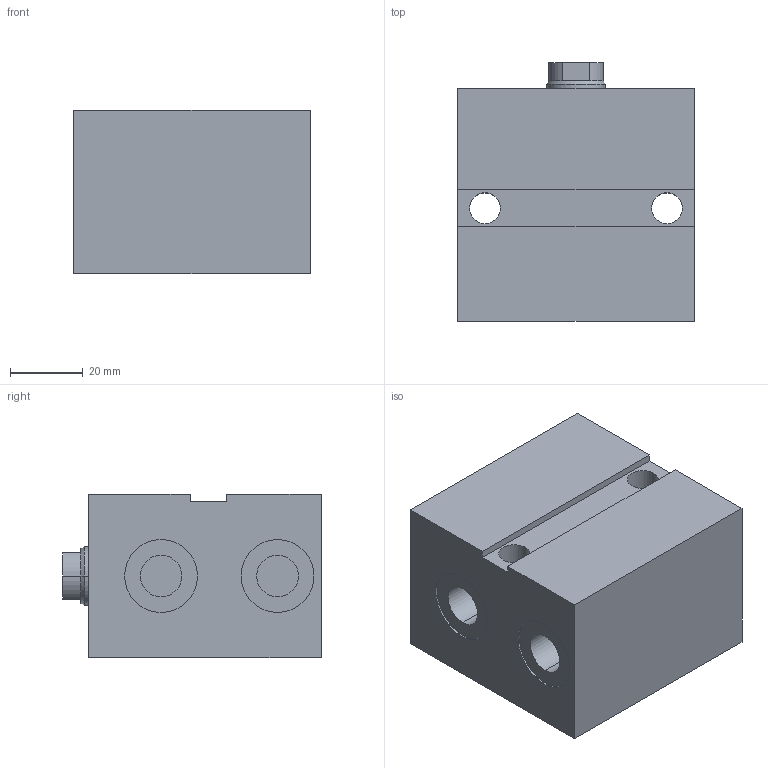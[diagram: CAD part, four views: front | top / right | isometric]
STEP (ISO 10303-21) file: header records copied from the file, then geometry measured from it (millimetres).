
FILE_DESCRIPTION (( 'STEP AP203' ), '1' );
FILE_NAME ('GERMA_Blockzylinder_602-025-020.STEP', '2015-06-20T17:56:20', ( '' ), ( '' ), 'SwSTEP 2.0', 'SolidWorks 2013', '' );
FILE_SCHEMA (( 'CONFIG_CONTROL_DESIGN' ));
Length unit declared in the file: millimetre
Products named in the file (3): Kolben 60x-025_Kolben DU.25-Hub20-IG; GERMA_Blockzylinder_602-025-020; GH-600-025_GH-602-025-020
Assembly tree (2 placements, depth 2):
  GERMA_Blockzylinder_602-025-020
    GH-600-025_GH-602-025-020
    Kolben 60x-025_Kolben DU.25-Hub20-IG
Bounding box: 65 x 71 x 45 mm (x, y, z)
Volume: 171878.5 mm3; surface area: 32557.9 mm2
Topology: 2 solids, 2 shells, 73 faces, 160 edges, 98 vertices
Faces by surface type: cylinder 33, plane 26, cone 14
Entity records: 2286 total; most frequent: DIRECTION 387, CARTESIAN_POINT 330, ORIENTED_EDGE 308, AXIS2_PLACEMENT_3D 155, EDGE_CURVE 154, VERTEX_POINT 98, EDGE_LOOP 90, CIRCLE 77
